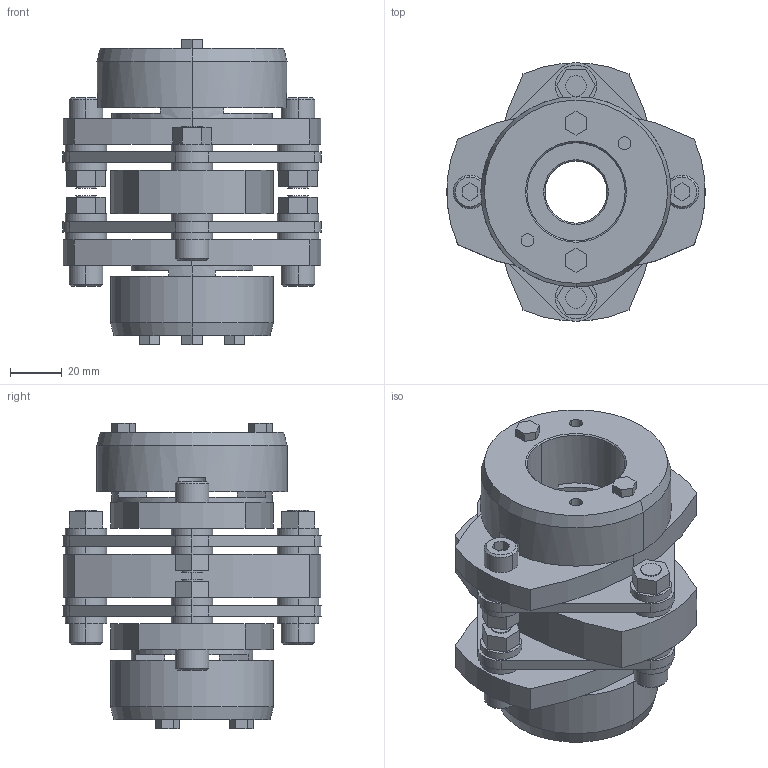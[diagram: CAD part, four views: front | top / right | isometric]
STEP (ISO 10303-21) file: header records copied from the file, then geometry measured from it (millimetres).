
FILE_DESCRIPTION((''),'2;1');
FILE_NAME('LCD-100T7-24×38.stp','2015-11-02T07:24:01',(''),(''),'AutoCAD STEP 2000i','AutoCAD 2000i',', , ');
FILE_SCHEMA(('CONFIG_CONTROL_DESIGN'));
Length unit declared in the file: millimetre
Products named in the file (10): LCD-100T7-25×38; 忣兜1; LC100T7-T038; LC100T7-T035; LC100T7-T030; LC100T7-T025-1; LC100T7-T025; LC100T7-T022-1; LC100T7-T022; LCD100-ITA
Assembly tree (9 placements, depth 2):
  LCD-100T7-25×38
    忣兜1
    LC100T7-T038
    LC100T7-T035
    LC100T7-T030
    LC100T7-T025-1
    LC100T7-T025
    LC100T7-T022-1
    LC100T7-T022
    LCD100-ITA
Bounding box: 100 x 99.93 x 118 mm (x, y, z)
Volume: 354882.6 mm3; surface area: 90667 mm2
Topology: 1 solids, 1 shells, 317 faces, 774 edges, 508 vertices
Faces by surface type: plane 171, cylinder 122, cone 24
Entity records: 9637 total; most frequent: DIRECTION 1716, CARTESIAN_POINT 1609, ORIENTED_EDGE 1548, EDGE_CURVE 774, AXIS2_PLACEMENT_3D 615, VERTEX_POINT 508, VECTOR 486, LINE 486
